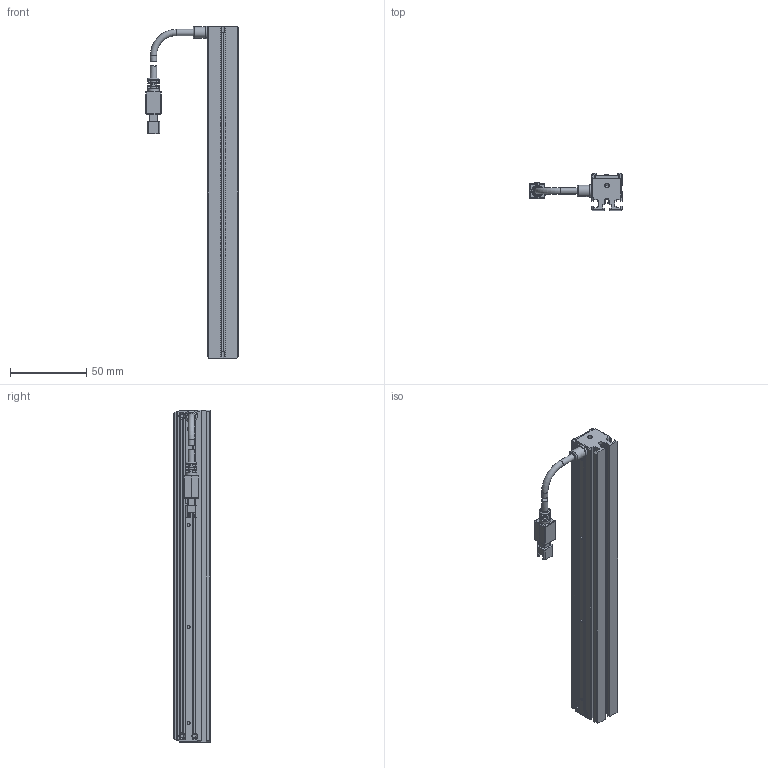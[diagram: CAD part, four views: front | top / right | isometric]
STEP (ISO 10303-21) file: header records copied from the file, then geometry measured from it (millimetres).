
FILE_DESCRIPTION (( 'STEP AP203' ), '1' );
FILE_NAME ('OPT-ILI21820-IR-V1.0U尨砩芞.STEP', '2025-01-18T07:56:38', ( '' ), ( '' ), 'SwSTEP 2.0', 'SolidWorks 2016', '' );
FILE_SCHEMA (( 'CONFIG_CONTROL_DESIGN' ));
Length unit declared in the file: millimetre
Products named in the file (1): OPT-ILI21820-IR-V1.0U尨砩芞
Bounding box: 60.6 x 24 x 218 mm (x, y, z)
Volume: 85333.6 mm3; surface area: 39502.7 mm2
Topology: 5 solids, 15 shells, 621 faces, 1616 edges, 1044 vertices
Faces by surface type: plane 422, cylinder 139, cone 30, bspline 20, torus 10
Full cylindrical faces by diameter (mm): 1.1 x2, 1.4 x4, 1.6 x7, 1.8 x2, 2 x15, 2.4 x7, 2.5 x2, 2.6 x2, 3 x2, 3.5 x1, 4.1 x3, 7.5 x2, 8 x1
Entity records: 18899 total; most frequent: CARTESIAN_POINT 4304, ORIENTED_EDGE 2982, DIRECTION 2892, EDGE_CURVE 1491, VECTOR 1026, LINE 1026, VERTEX_POINT 1001, AXIS2_PLACEMENT_3D 933
